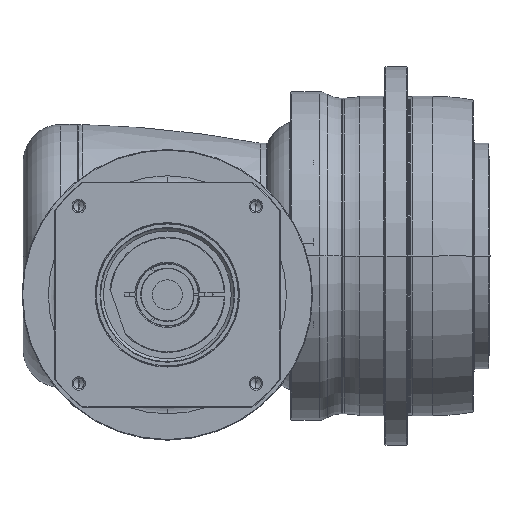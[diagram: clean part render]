
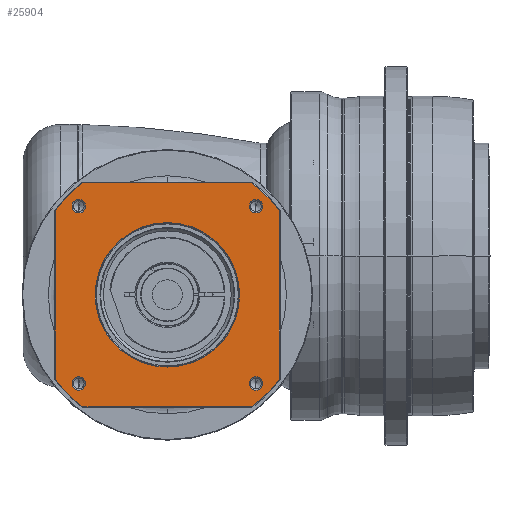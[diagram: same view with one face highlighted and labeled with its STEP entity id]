
A CAD part, front view. The second image highlights one B-rep face of the part: STEP entity #25904.
In plain terms, the highlighted planar face has unit normal (0, -1, 0) as drawn and (0, 0, 1) by its records, which use the part's own axes.
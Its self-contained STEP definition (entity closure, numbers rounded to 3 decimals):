
#24637=DIRECTION('',(1.,0.,0.));
#24638=VECTOR('',#24637,134.666);
#24639=CARTESIAN_POINT('',(-67.333,-89.5,41.));
#24640=LINE('',#24639,#24638);
#24650=CARTESIAN_POINT('',(0.,0.,
41.));
#24651=DIRECTION('',(0.,0.,-1.));
#24652=DIRECTION('',(0.,-1.,0.));
#24653=AXIS2_PLACEMENT_3D('',#24650,#24651,#24652);
#24655=CARTESIAN_POINT('',(0.,0.,
41.));
#24656=DIRECTION('',(0.,0.,-1.));
#24657=DIRECTION('',(0.,1.,0.));
#24658=AXIS2_PLACEMENT_3D('',#24655,#24656,#24657);
#24660=CARTESIAN_POINT('',(0.,0.,41.));
#24661=DIRECTION('',(0.,0.,1.));
#24662=DIRECTION('',(-0.799,-0.601,0.));
#24663=AXIS2_PLACEMENT_3D('',#24660,#24661,#24662);
#24675=DIRECTION('',(0.,-1.,0.));
#24676=VECTOR('',#24675,134.666);
#24677=CARTESIAN_POINT('',(-89.5,67.333,41.));
#24678=LINE('',#24677,#24676);
#24688=CARTESIAN_POINT('',(0.,0.,41.));
#24689=DIRECTION('',(0.,0.,1.));
#24690=DIRECTION('',(-0.601,0.799,0.));
#24691=AXIS2_PLACEMENT_3D('',#24688,#24689,#24690);
#24716=DIRECTION('',(-1.,0.,0.));
#24717=VECTOR('',#24716,134.666);
#24718=CARTESIAN_POINT('',(67.333,89.5,41.));
#24719=LINE('',#24718,#24717);
#24724=CARTESIAN_POINT('',(0.,0.,41.));
#24725=DIRECTION('',(0.,0.,1.));
#24726=DIRECTION('',(0.799,0.601,0.));
#24727=AXIS2_PLACEMENT_3D('',#24724,#24725,#24726);
#24739=DIRECTION('',(0.,1.,0.));
#24740=VECTOR('',#24739,134.666);
#24741=CARTESIAN_POINT('',(89.5,-67.333,41.));
#24742=LINE('',#24741,#24740);
#24844=CARTESIAN_POINT('',(0.,0.,41.));
#24845=DIRECTION('',(0.,0.,1.));
#24846=DIRECTION('',(0.601,-0.799,0.));
#24847=AXIS2_PLACEMENT_3D('',#24844,#24845,#24846);
#25121=CARTESIAN_POINT('',(-70.711,70.711,41.));
#25122=DIRECTION('',(0.,0.,1.));
#25123=DIRECTION('',(-1.,0.,0.));
#25124=AXIS2_PLACEMENT_3D('',#25121,#25122,#25123);
#25139=CARTESIAN_POINT('',(-70.711,70.711,41.));
#25140=DIRECTION('',(0.,0.,1.));
#25141=DIRECTION('',(1.,0.,0.));
#25142=AXIS2_PLACEMENT_3D('',#25139,#25140,#25141);
#25175=CARTESIAN_POINT('',(70.711,70.711,41.));
#25176=DIRECTION('',(0.,0.,1.));
#25177=DIRECTION('',(-1.,0.,0.));
#25178=AXIS2_PLACEMENT_3D('',#25175,#25176,#25177);
#25193=CARTESIAN_POINT('',(70.711,70.711,41.));
#25194=DIRECTION('',(0.,0.,1.));
#25195=DIRECTION('',(1.,0.,0.));
#25196=AXIS2_PLACEMENT_3D('',#25193,#25194,#25195);
#25229=CARTESIAN_POINT('',(70.711,-70.711,41.));
#25230=DIRECTION('',(0.,0.,1.));
#25231=DIRECTION('',(-1.,0.,0.));
#25232=AXIS2_PLACEMENT_3D('',#25229,#25230,#25231);
#25247=CARTESIAN_POINT('',(70.711,-70.711,41.));
#25248=DIRECTION('',(0.,0.,1.));
#25249=DIRECTION('',(1.,0.,0.));
#25250=AXIS2_PLACEMENT_3D('',#25247,#25248,#25249);
#25283=CARTESIAN_POINT('',(-70.711,-70.711,41.));
#25284=DIRECTION('',(0.,0.,1.));
#25285=DIRECTION('',(-1.,0.,0.));
#25286=AXIS2_PLACEMENT_3D('',#25283,#25284,#25285);
#25301=CARTESIAN_POINT('',(-70.711,-70.711,41.));
#25302=DIRECTION('',(0.,0.,1.));
#25303=DIRECTION('',(1.,0.,0.));
#25304=AXIS2_PLACEMENT_3D('',#25301,#25302,#25303);
#25345=CARTESIAN_POINT('',(89.5,-67.333,41.));
#25346=CARTESIAN_POINT('',(89.5,67.333,41.));
#25347=VERTEX_POINT('',#25345);
#25348=VERTEX_POINT('',#25346);
#25353=CARTESIAN_POINT('',(67.333,-89.5,41.));
#25354=VERTEX_POINT('',#25353);
#25357=CARTESIAN_POINT('',(-67.333,-89.5,41.));
#25358=VERTEX_POINT('',#25357);
#25361=CARTESIAN_POINT('',(-89.5,-67.333,41.));
#25362=VERTEX_POINT('',#25361);
#25365=CARTESIAN_POINT('',(-89.5,67.333,41.));
#25366=VERTEX_POINT('',#25365);
#25369=CARTESIAN_POINT('',(-67.333,89.5,41.));
#25370=VERTEX_POINT('',#25369);
#25373=CARTESIAN_POINT('',(67.333,89.5,41.));
#25374=VERTEX_POINT('',#25373);
#25423=CARTESIAN_POINT('',(-76.061,70.711,41.));
#25424=CARTESIAN_POINT('',(-65.361,70.711,41.));
#25425=VERTEX_POINT('',#25423);
#25426=VERTEX_POINT('',#25424);
#25457=CARTESIAN_POINT('',(76.061,70.711,41.));
#25458=CARTESIAN_POINT('',(65.361,70.711,41.));
#25459=VERTEX_POINT('',#25457);
#25460=VERTEX_POINT('',#25458);
#25465=CARTESIAN_POINT('',(76.061,-70.711,41.));
#25466=CARTESIAN_POINT('',(65.361,-70.711,41.));
#25467=VERTEX_POINT('',#25465);
#25468=VERTEX_POINT('',#25466);
#25473=CARTESIAN_POINT('',(-65.361,-70.711,41.));
#25474=CARTESIAN_POINT('',(-76.061,-70.711,41.));
#25475=VERTEX_POINT('',#25473);
#25476=VERTEX_POINT('',#25474);
#25481=CARTESIAN_POINT('',(0.,-57.65,41.));
#25482=CARTESIAN_POINT('',(0.,57.65,41.));
#25483=VERTEX_POINT('',#25481);
#25484=VERTEX_POINT('',#25482);
#25852=CARTESIAN_POINT('',(0.,0.,41.));
#25853=DIRECTION('',(0.,0.,1.));
#25854=DIRECTION('',(1.,0.,0.));
#25855=AXIS2_PLACEMENT_3D('',#25852,#25853,#25854);
#25856=PLANE('',#25855);
#25858=ORIENTED_EDGE('',*,*,#25857,.F.);
#25860=ORIENTED_EDGE('',*,*,#25859,.F.);
#25862=ORIENTED_EDGE('',*,*,#25861,.F.);
#25864=ORIENTED_EDGE('',*,*,#25863,.F.);
#25866=ORIENTED_EDGE('',*,*,#25865,.F.);
#25868=ORIENTED_EDGE('',*,*,#25867,.F.);
#25870=ORIENTED_EDGE('',*,*,#25869,.F.);
#25871=ORIENTED_EDGE('',*,*,#25842,.F.);
#25872=EDGE_LOOP('',(#25858,#25860,#25862,#25864,#25866,#25868,#25870,#25871));
#25873=FACE_OUTER_BOUND('',#25872,.F.);
#25875=ORIENTED_EDGE('',*,*,#25874,.F.);
#25877=ORIENTED_EDGE('',*,*,#25876,.F.);
#25878=EDGE_LOOP('',(#25875,#25877));
#25879=FACE_BOUND('',#25878,.F.);
#25881=ORIENTED_EDGE('',*,*,#25880,.T.);
#25883=ORIENTED_EDGE('',*,*,#25882,.T.);
#25884=EDGE_LOOP('',(#25881,#25883));
#25885=FACE_BOUND('',#25884,.F.);
#25887=ORIENTED_EDGE('',*,*,#25886,.T.);
#25889=ORIENTED_EDGE('',*,*,#25888,.T.);
#25890=EDGE_LOOP('',(#25887,#25889));
#25891=FACE_BOUND('',#25890,.F.);
#25893=ORIENTED_EDGE('',*,*,#25892,.T.);
#25895=ORIENTED_EDGE('',*,*,#25894,.T.);
#25896=EDGE_LOOP('',(#25893,#25895));
#25897=FACE_BOUND('',#25896,.F.);
#25899=ORIENTED_EDGE('',*,*,#25898,.T.);
#25901=ORIENTED_EDGE('',*,*,#25900,.T.);
#25902=EDGE_LOOP('',(#25899,#25901));
#25903=FACE_BOUND('',#25902,.F.);
#25904=ADVANCED_FACE('',(#25873,#25879,#25885,#25891,#25897,#25903),#25856,.T.);
#24654=CIRCLE('',#24653,57.65);
#24659=CIRCLE('',#24658,57.65);
#24664=CIRCLE('',#24663,112.);
#24692=CIRCLE('',#24691,112.);
#24728=CIRCLE('',#24727,112.);
#24848=CIRCLE('',#24847,112.);
#25125=CIRCLE('',#25124,5.35);
#25143=CIRCLE('',#25142,5.35);
#25179=CIRCLE('',#25178,5.35);
#25197=CIRCLE('',#25196,5.35);
#25233=CIRCLE('',#25232,5.35);
#25251=CIRCLE('',#25250,5.35);
#25287=CIRCLE('',#25286,5.35);
#25305=CIRCLE('',#25304,5.35);
#25842=EDGE_CURVE('',#25358,#25354,#24640,.T.);
#25857=EDGE_CURVE('',#25362,#25358,#24664,.T.);
#25859=EDGE_CURVE('',#25366,#25362,#24678,.T.);
#25861=EDGE_CURVE('',#25370,#25366,#24692,.T.);
#25863=EDGE_CURVE('',#25374,#25370,#24719,.T.);
#25865=EDGE_CURVE('',#25348,#25374,#24728,.T.);
#25867=EDGE_CURVE('',#25347,#25348,#24742,.T.);
#25869=EDGE_CURVE('',#25354,#25347,#24848,.T.);
#25874=EDGE_CURVE('',#25483,#25484,#24654,.T.);
#25876=EDGE_CURVE('',#25484,#25483,#24659,.T.);
#25880=EDGE_CURVE('',#25425,#25426,#25125,.T.);
#25882=EDGE_CURVE('',#25426,#25425,#25143,.T.);
#25886=EDGE_CURVE('',#25460,#25459,#25179,.T.);
#25888=EDGE_CURVE('',#25459,#25460,#25197,.T.);
#25892=EDGE_CURVE('',#25468,#25467,#25233,.T.);
#25894=EDGE_CURVE('',#25467,#25468,#25251,.T.);
#25898=EDGE_CURVE('',#25476,#25475,#25287,.T.);
#25900=EDGE_CURVE('',#25475,#25476,#25305,.T.);
